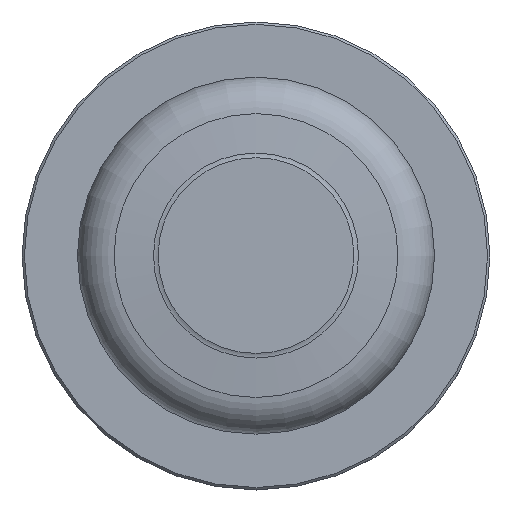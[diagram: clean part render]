
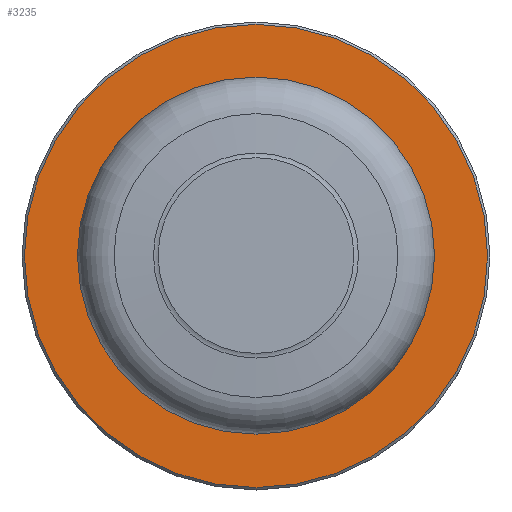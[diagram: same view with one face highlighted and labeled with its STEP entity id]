
A CAD part, top view. The second image highlights one B-rep face of the part: STEP entity #3235.
In plain terms, the highlighted planar face has unit normal (0, 0, 1) as drawn and (0, 1, 0) by its records, which use the part's own axes.
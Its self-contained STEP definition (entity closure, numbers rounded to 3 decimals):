
#3235=ADVANCED_FACE('AC_MATE2',(#3512),#3374,.F.);
#3374=PLANE('',#6800);
#3512=FACE_OUTER_BOUND('',#3946,.T.);
#3946=EDGE_LOOP('',(#5103));
#4219=CIRCLE('',#6799,24.25);
#5103=ORIENTED_EDGE('',*,*,#5921,.T.);
#5471=VERTEX_POINT('',#9485);
#5921=EDGE_CURVE('',#5471,#5471,#4219,.T.);
#6799=AXIS2_PLACEMENT_3D('',#9484,#8071,#8072);
#6800=AXIS2_PLACEMENT_3D('',#9486,#8073,#8074);
#8071=DIRECTION('',(0.,1.,0.));
#8072=DIRECTION('',(1.,0.,0.));
#8073=DIRECTION('',(0.,-1.,0.));
#8074=DIRECTION('',(1.,0.,0.));
#9484=CARTESIAN_POINT('',(0.,14.005,0.));
#9485=CARTESIAN_POINT('',(24.25,14.005,0.));
#9486=CARTESIAN_POINT('',(18.733,14.005,0.));
